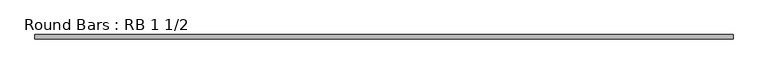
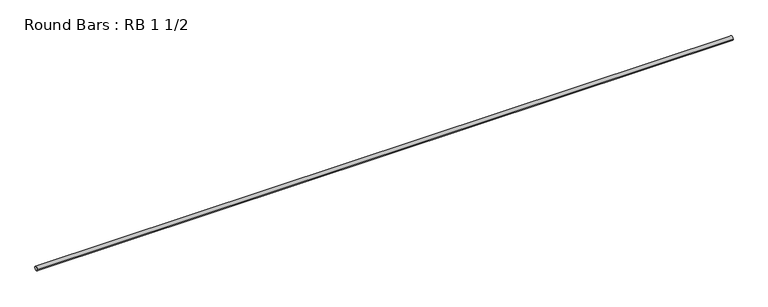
"""IFC4 building model written with IfcOpenShell, lengths in millimetres: member geometry, Round Bars : RB 1 1/2."""

from ifc_helpers import new_model, si_unit, point, frame, origin, origin_2d, place, context, project, spatial, circle_curve, trimmed, segment, composite_curve, outline, extrude, source, transform, mapped, element, save


def round_bars_rb_1_1_2_2f28657b(model_context):
    return source(origin(), model_context, "Body", "SweptSolid", [
        extrude(outline(composite_curve([segment(trimmed(circle_curve(origin_2d(), 19.05), [point((19.05, 0.0))], [point((-19.05, 0.0))], False, "CARTESIAN"), True, "CONTINUOUS"), segment(trimmed(circle_curve(origin_2d(), 19.05), [point((-19.05, 0.0))], [point((19.05, 0.0))], False, "CARTESIAN"), True, "CONTINUOUS")], self_intersect=False)), frame((-3146.8033264, 0.0, 0.0), z_axis=(1.0, 0.0, 0.0), x_axis=(0.0, 1.0, 0.0)), (0.0, 0.0, 1.0), 6297.7232764),
    ])


if __name__ == "__main__":
    model = new_model("IFC4")
    model_context = context("Model", 3, world=origin())
    ifc_project = project(units=[si_unit("LENGTHUNIT", "METRE", prefix="MILLI")], contexts=[model_context])
    site = spatial("IfcSite", under=ifc_project)
    building = spatial("IfcBuilding", under=site)
    placement = place(None, origin())
    round_bars_rb_1_1_2_shape = round_bars_rb_1_1_2_2f28657b(model_context)
    element("IfcMember", 1, ObjectType="Round Bars : RB 1 1/2", at=placement, inside=building, context=model_context, shape_type="MappedRepresentation", body=[
        mapped(round_bars_rb_1_1_2_shape, transform((0.0, 0.0, 0.0), x_axis=(1.0, 0.0, 0.0), y_axis=(0.0, 1.0, 0.0), z_axis=(0.0, 0.0, 1.0))),
    ])
    save(model, "model.ifc")
